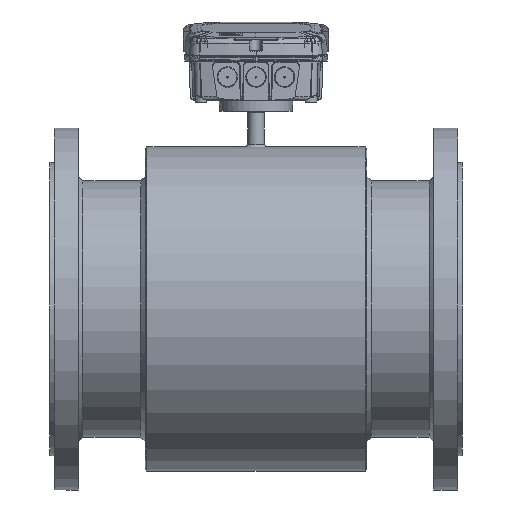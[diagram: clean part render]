
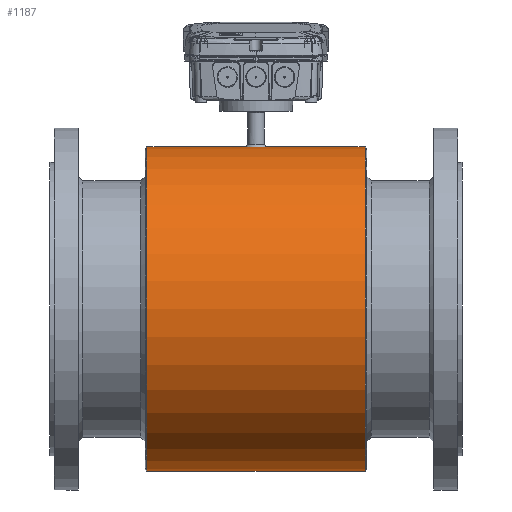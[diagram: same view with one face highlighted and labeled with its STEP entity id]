
A CAD part, front view. The second image highlights one B-rep face of the part: STEP entity #1187.
In plain terms, the highlighted cylindrical face has radius 177 mm (diameter 354 mm), a full revolution.
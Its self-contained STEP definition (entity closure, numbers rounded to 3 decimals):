
#1123=CARTESIAN_POINT('',(0.,-11.496,176.626));
#1124=VERTEX_POINT('',#1123);
#1134=CARTESIAN_POINT('',(0.,-11.496,176.626));
#1135=CARTESIAN_POINT('',(1.745,-11.496,176.626));
#1136=CARTESIAN_POINT('',(5.236,-10.711,176.68));
#1137=CARTESIAN_POINT('',(9.434,-7.413,176.861));
#1138=CARTESIAN_POINT('',(11.762,-2.648,177.005));
#1139=CARTESIAN_POINT('',(11.77,3.238,177.007));
#1140=CARTESIAN_POINT('',(9.034,7.908,176.835));
#1141=CARTESIAN_POINT('',(5.138,10.509,176.69));
#1142=CARTESIAN_POINT('',(0.641,11.89,176.599));
#1143=CARTESIAN_POINT('',(-4.771,11.083,176.658));
#1144=CARTESIAN_POINT('',(-9.432,7.411,176.861));
#1145=CARTESIAN_POINT('',(-11.764,2.648,177.005));
#1146=CARTESIAN_POINT('',(-11.764,-2.647,177.006));
#1147=CARTESIAN_POINT('',(-9.434,-7.414,176.861));
#1148=CARTESIAN_POINT('',(-5.236,-10.711,176.68));
#1149=CARTESIAN_POINT('',(-1.745,-11.496,176.626));
#1150=CARTESIAN_POINT('',(0.,-11.496,176.626));
#1151=B_SPLINE_CURVE_WITH_KNOTS('',3,(#1134,#1135,#1136,#1137,#1138,#1139,#1140,#1141,#1142,#1143,#1144,#1145,#1146,#1147,#1148,#1149,#1150),.UNSPECIFIED.,.T.,.U.,(4,1,1,1,1,1,1,1,1,1,1,1,1,1,4),(-7.3,-6.778,-6.257,-5.735,-5.214,-4.519,-4.171,-3.824,-3.128,-2.607,-2.086,-1.564,-1.043,-0.521,0.0),.UNSPECIFIED.);
#1152=EDGE_CURVE('',#1124,#1124,#1151,.T.);
#1157=CARTESIAN_POINT('',(59.5,0.0,0.0));
#1158=DIRECTION('',(1.0,0.0,0.0));
#1159=DIRECTION('',(0.0,1.0,0.0));
#1160=AXIS2_PLACEMENT_3D('',#1157,#1158,#1159);
#1161=CYLINDRICAL_SURFACE('',#1160,177.);
#1162=CARTESIAN_POINT('',(-119.,177.,0.0));
#1163=VERTEX_POINT('',#1162);
#1164=CARTESIAN_POINT('',(-119.,0.0,0.0));
#1165=DIRECTION('',(1.0,0.0,0.0));
#1166=DIRECTION('',(0.0,1.0,0.0));
#1167=AXIS2_PLACEMENT_3D('',#1164,#1165,#1166);
#1168=CIRCLE('',#1167,177.);
#1169=EDGE_CURVE('',#1163,#1163,#1168,.T.);
#1170=ORIENTED_EDGE('',*,*,#1169,.T.);
#1171=EDGE_LOOP('',(#1170));
#1172=FACE_OUTER_BOUND('',#1171,.T.);
#1173=CARTESIAN_POINT('',(119.,177.,0.0));
#1174=VERTEX_POINT('',#1173);
#1175=CARTESIAN_POINT('',(119.,0.0,0.0));
#1176=DIRECTION('',(1.0,0.0,0.0));
#1177=DIRECTION('',(0.0,1.0,0.0));
#1178=AXIS2_PLACEMENT_3D('',#1175,#1176,#1177);
#1179=CIRCLE('',#1178,177.);
#1180=EDGE_CURVE('',#1174,#1174,#1179,.T.);
#1181=ORIENTED_EDGE('',*,*,#1180,.F.);
#1182=EDGE_LOOP('',(#1181));
#1183=FACE_BOUND('',#1182,.T.);
#1184=ORIENTED_EDGE('',*,*,#1152,.F.);
#1185=EDGE_LOOP('',(#1184));
#1186=FACE_BOUND('',#1185,.T.);
#1187=ADVANCED_FACE('',(#1172,#1183,#1186),#1161,.T.);
